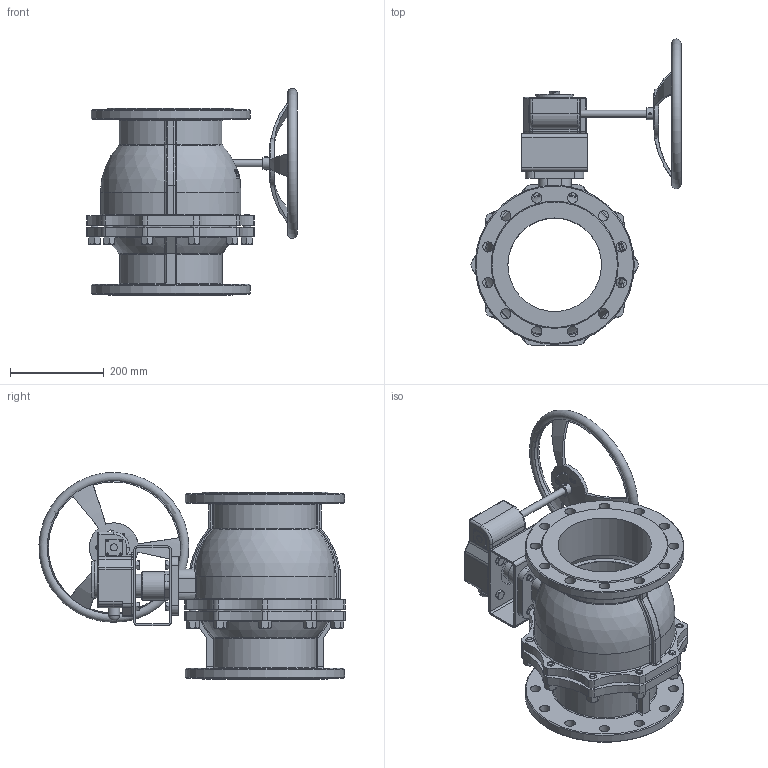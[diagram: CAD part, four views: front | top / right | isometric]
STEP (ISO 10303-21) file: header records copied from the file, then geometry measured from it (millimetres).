
FILE_DESCRIPTION(('STEP AP242'), '1');
FILE_NAME('BV3232P(2pc)-FP-F-ISO-H Êðàí øàðîâîé DN.ru Äó200 Ðó16 ðåäóêòîð', '', ('UNSPECIFIED'), ('UNSPECIFIED'), 'C3D Converter', 'C3D Toolkit', '');
FILE_SCHEMA(('AP242_MANAGED_MODEL_BASED_3D_ENGINEERING_MIM_LF { 1 0 10303 442 1 1 4 }'));
Length unit declared in the file: millimetre
Products named in the file (1): BV3232P(2pc)-FP-F-ISO-H
Bounding box: 448.61 x 653.42 x 441.98 mm (x, y, z)
Volume: 13616201.2 mm3; surface area: 1613356.4 mm2
Topology: 3 solids, 4 shells, 1685 faces, 4329 edges, 2720 vertices
Faces by surface type: plane 656, cone 386, cylinder 299, bspline 213, torus 95, sphere 36
Full cylindrical faces by diameter (mm): 3.5 x8, 5 x2, 8.8 x6, 12 x6, 13.835 x8, 15 x12, 16 x11, 18 x8, 22 x24, 25 x3, 49.969 x1, 61.074 x1, 62 x1, 72.948 x2, 80 x1, 200 x3, 240 x2, 260 x1, 285 x1, 340 x2
Entity records: 110601 total; most frequent: CARTESIAN_POINT 66428, ORIENTED_EDGE 8180, DIRECTION 7027, EDGE_CURVE 4090, AXIS2_PLACEMENT_3D 2845, VERTEX_POINT 2680, EDGE_LOOP 2058, FACE_BOUND 1842
